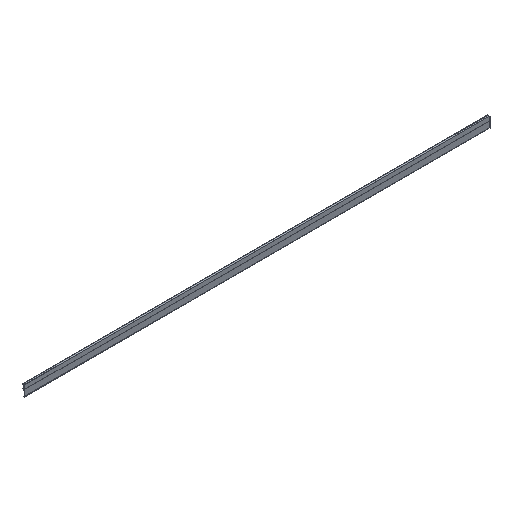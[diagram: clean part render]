
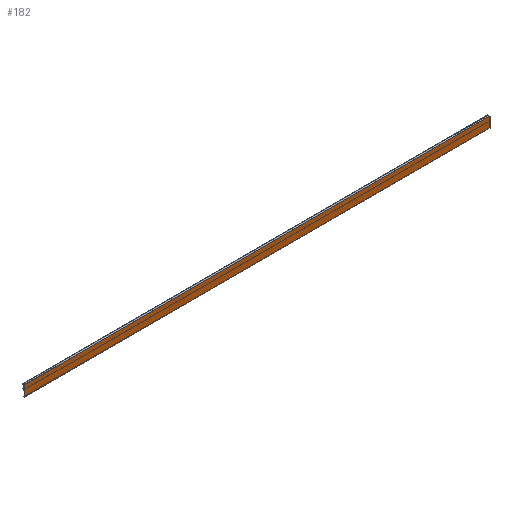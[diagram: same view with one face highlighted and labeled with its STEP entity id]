
A CAD part, isometric view. The second image highlights one B-rep face of the part: STEP entity #182.
In plain terms, the highlighted planar face has unit normal (0, -1, 0).
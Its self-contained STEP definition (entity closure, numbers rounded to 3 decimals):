
#182=ADVANCED_FACE('',(#372),#373,.T.);
#372=FACE_OUTER_BOUND('',#563,.T.);
#373=PLANE('',#564);
#563=EDGE_LOOP('',(#1053,#1054,#1055,#1056));
#564=AXIS2_PLACEMENT_3D('',#1057,#1058,#1059);
#1053=ORIENTED_EDGE('',*,*,#1317,.T.);
#1054=ORIENTED_EDGE('',*,*,#1347,.F.);
#1055=ORIENTED_EDGE('',*,*,#1348,.F.);
#1056=ORIENTED_EDGE('',*,*,#1344,.T.);
#1057=CARTESIAN_POINT('',(0.0,-15.5,0.0));
#1058=DIRECTION('',(0.0,-1.0,0.0));
#1059=DIRECTION('',(0.0,0.0,-1.0));
#1317=EDGE_CURVE('',#1618,#1616,#1619,.T.);
#1344=EDGE_CURVE('',#1660,#1618,#1661,.T.);
#1347=EDGE_CURVE('',#1664,#1616,#1665,.T.);
#1348=EDGE_CURVE('',#1660,#1664,#1666,.T.);
#1616=VERTEX_POINT('',#2019);
#1618=VERTEX_POINT('',#2022);
#1619=LINE('',#2023,#2024);
#1660=VERTEX_POINT('',#2085);
#1661=LINE('',#2086,#2087);
#1664=VERTEX_POINT('',#2091);
#1665=LINE('',#2092,#2093);
#1666=LINE('',#2094,#2095);
#2019=CARTESIAN_POINT('',(3500.0,-15.5,0.0));
#2022=CARTESIAN_POINT('',(3500.0,-15.5,-79.0));
#2023=CARTESIAN_POINT('',(3500.0,-15.5,-15.25));
#2024=VECTOR('',#2346,1.0);
#2085=CARTESIAN_POINT('',(0.0,-15.5,-79.0));
#2086=CARTESIAN_POINT('',(0.0,-15.5,-79.0));
#2087=VECTOR('',#2367,1.0);
#2091=CARTESIAN_POINT('',(0.0,-15.5,0.0));
#2092=CARTESIAN_POINT('',(0.0,-15.5,0.0));
#2093=VECTOR('',#2369,1.0);
#2094=CARTESIAN_POINT('',(0.0,-15.5,-61.0));
#2095=VECTOR('',#2370,1.0);
#2346=DIRECTION('',(0.0,0.0,1.0));
#2367=DIRECTION('',(1.0,0.0,0.0));
#2369=DIRECTION('',(1.0,0.0,0.0));
#2370=DIRECTION('',(0.0,0.0,1.0));
